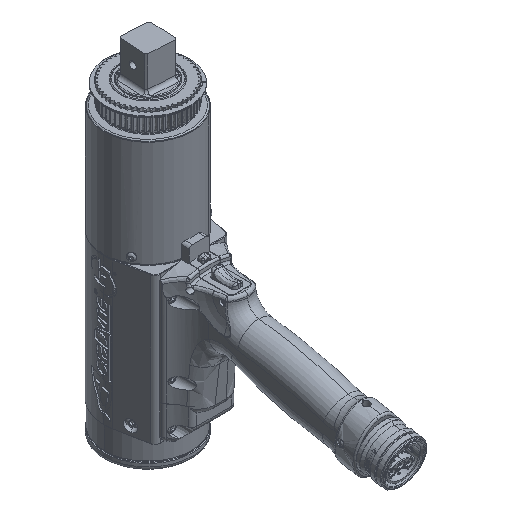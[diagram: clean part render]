
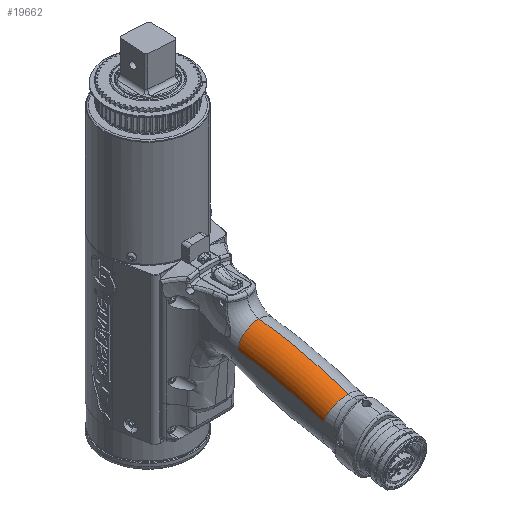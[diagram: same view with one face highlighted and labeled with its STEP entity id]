
A CAD part, isometric view. The second image highlights one B-rep face of the part: STEP entity #19662.
In plain terms, the highlighted toroidal (fillet/blend) face has major radius 363.555 mm and minor radius 16.662 mm.
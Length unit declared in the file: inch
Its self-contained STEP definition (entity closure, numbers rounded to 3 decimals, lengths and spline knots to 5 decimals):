
#3094 = CARTESIAN_POINT ( 'NONE',  ( 0., -6.68654, -2.07522 ) ) ;
#5621 = DIRECTION ( 'NONE',  ( 0., -0.993, -0.12 ) ) ;
#19662 = ADVANCED_FACE ( 'NONE', ( #90843 ), #100994, .T. ) ;
#22519 = VERTEX_POINT ( 'NONE', #38806 ) ;
#26268 = ORIENTED_EDGE ( 'NONE', *, *, #97056, .T. ) ;
#27993 = CARTESIAN_POINT ( 'NONE',  ( -0.656, -3.74333, -1.39704 ) ) ;
#30387 = CIRCLE ( 'NONE', #91560, 14.31321 ) ;
#35232 = AXIS2_PLACEMENT_3D ( 'NONE', #3094, #42082, #89360 ) ;
#38806 = CARTESIAN_POINT ( 'NONE',  ( -0.656, -6.68654, -2.07522 ) ) ;
#42082 = DIRECTION ( 'NONE',  ( 0., -0.945, -0.326 ) ) ;
#44758 = DIRECTION ( 'NONE',  ( 0., 0., -1. ) ) ;
#45773 = EDGE_LOOP ( 'NONE', ( #26268, #48265, #81744, #67404 ) ) ;
#47195 = CARTESIAN_POINT ( 'NONE',  ( 0., -2.019, -15.606 ) ) ;
#48265 = ORIENTED_EDGE ( 'NONE', *, *, #76407, .F. ) ;
#50223 = CARTESIAN_POINT ( 'NONE',  ( 0., -3.82235, -0.74582 ) ) ;
#53717 = CIRCLE ( 'NONE', #102708, 0.656 ) ;
#54805 = CARTESIAN_POINT ( 'NONE',  ( 0., -3.74333, -1.39704 ) ) ;
#57233 = VERTEX_POINT ( 'NONE', #27993 ) ;
#58382 = CARTESIAN_POINT ( 'NONE',  ( -0.656, -2.019, -15.606 ) ) ;
#67404 = ORIENTED_EDGE ( 'NONE', *, *, #124773, .T. ) ;
#76407 = EDGE_CURVE ( 'NONE', #22519, #57233, #30387, .T. ) ;
#78082 = DIRECTION ( 'NONE',  ( 0., 0., -1. ) ) ;
#81393 = VERTEX_POINT ( 'NONE', #92429 ) ;
#81744 = ORIENTED_EDGE ( 'NONE', *, *, #118238, .F. ) ;
#84371 = CARTESIAN_POINT ( 'NONE',  ( 0., -2.019, -15.606 ) ) ;
#84799 = DIRECTION ( 'NONE',  ( 0., -0.12, 0.993 ) ) ;
#86176 = DIRECTION ( 'NONE',  ( -1., 0., 0. ) ) ;
#87692 = DIRECTION ( 'NONE',  ( -1., 0., 0. ) ) ;
#89360 = DIRECTION ( 'NONE',  ( 0., -0.326, 0.945 ) ) ;
#90843 = FACE_OUTER_BOUND ( 'NONE', #45773, .T. ) ;
#91479 = DIRECTION ( 'NONE',  ( 1., 0., 0. ) ) ;
#91560 = AXIS2_PLACEMENT_3D ( 'NONE', #58382, #87692, #78082 ) ;
#92429 = CARTESIAN_POINT ( 'NONE',  ( 0., -6.90046, -1.45508 ) ) ;
#96908 = AXIS2_PLACEMENT_3D ( 'NONE', #84371, #91479, #44758 ) ;
#97056 = EDGE_CURVE ( 'NONE', #98527, #57233, #53717, .T. ) ;
#98527 = VERTEX_POINT ( 'NONE', #50223 ) ;
#100994 = TOROIDAL_SURFACE ( 'NONE', #96908, 14.31321, 0.656 ) ;
#102708 = AXIS2_PLACEMENT_3D ( 'NONE', #54805, #5621, #84799 ) ;
#108598 = CIRCLE ( 'NONE', #35232, 0.656 ) ;
#115403 = AXIS2_PLACEMENT_3D ( 'NONE', #47195, #86176, #125141 ) ;
#118238 = EDGE_CURVE ( 'NONE', #81393, #22519, #108598, .T. ) ;
#119505 = CIRCLE ( 'NONE', #115403, 14.96921 ) ;
#124773 = EDGE_CURVE ( 'NONE', #81393, #98527, #119505, .T. ) ;
#125141 = DIRECTION ( 'NONE',  ( 0., 0., -1. ) ) ;
